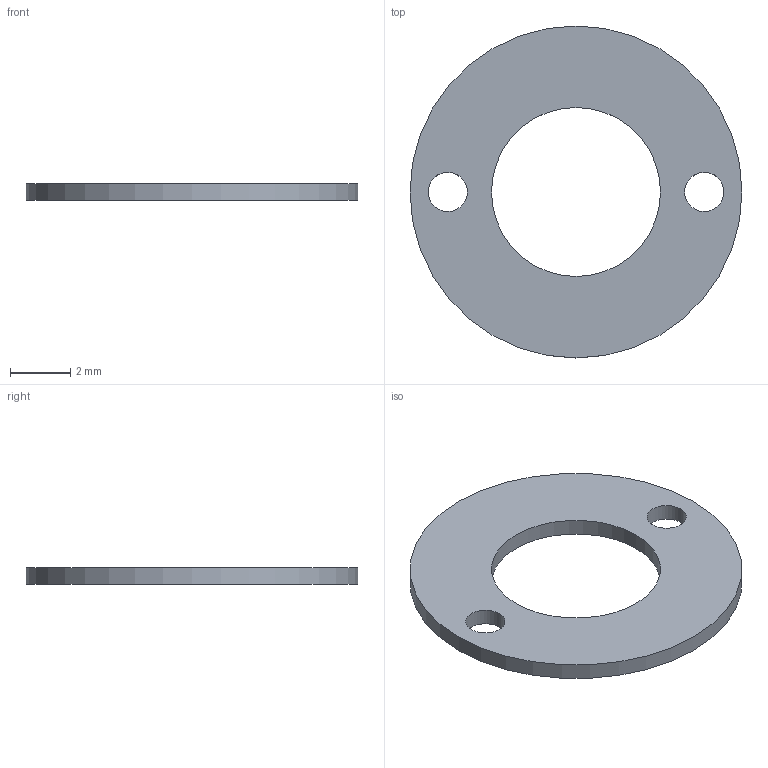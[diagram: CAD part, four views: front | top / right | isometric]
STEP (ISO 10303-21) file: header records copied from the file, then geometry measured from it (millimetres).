
FILE_DESCRIPTION(('Open CASCADE Model'),'2;1');
FILE_NAME('Open CASCADE Shape Model','2026-09-24T17:42:52',('Author'),( 'Open CASCADE'),'Open CASCADE STEP processor 7.8','Open CASCADE 7.8' ,'Unknown');
FILE_SCHEMA(('AUTOMOTIVE_DESIGN { 1 0 10303 214 1 1 1 1 }'));
Length unit declared in the file: millimetre
Products named in the file (1): Open CASCADE STEP translator 7.8 2
Bounding box: 11 x 11 x 0.55 mm (x, y, z)
Volume: 37.3 mm3; surface area: 168.7 mm2
Topology: 1 solids, 1 shells, 6 faces, 12 edges, 8 vertices
Faces by surface type: cylinder 4, plane 2
Full cylindrical faces by diameter (mm): 1.3 x2, 5.6 x1, 11 x1
Entity records: 342 total; most frequent: DIRECTION 58, CARTESIAN_POINT 51, ORIENTED_EDGE 24, PCURVE 24, DEFINITIONAL_REPRESENTATION 24, LINE 20, VECTOR 20, CIRCLE 16
